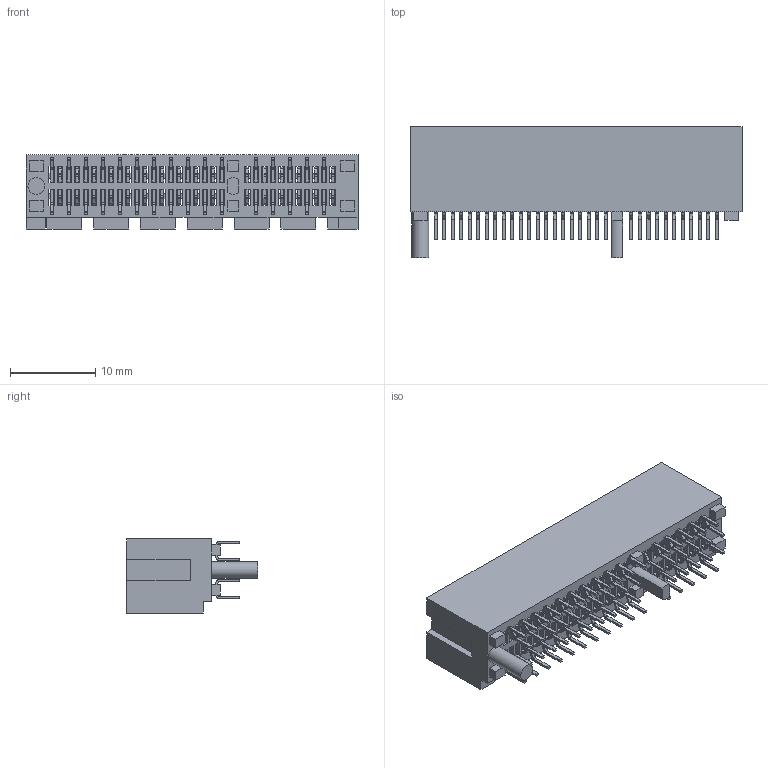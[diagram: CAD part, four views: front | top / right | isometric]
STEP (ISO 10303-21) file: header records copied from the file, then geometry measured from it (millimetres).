
FILE_DESCRIPTION(/* description */ ('STEP AP214'),/* implementation_level */ '2;1');
FILE_NAME(/* name */ 'PCIE-064-02-F-D-TH',/* time_stamp */ '2024-12-11T17:08:45+01:00',/* author */ ('License CC BY-ND 4.0'),/* organization */ ('CADENAS'),/* preprocessor_version */ 'ST-DEVELOPER v19.3',/* originating_system */ 'PARTsolutions',/* authorisation */ ' ');
FILE_SCHEMA (('AUTOMOTIVE_DESIGN {1 0 10303 214 3 1 1}'));
Products named in the file (4): PCIE-064-02-F-D-TH; PCIE-064-02-F-D-TH_body; PCIE-064-02-F-D-TH_pins1; PCIE-064-02-F-D-TH_pins2
Assembly tree (3 placements, depth 2):
  PCIE-064-02-F-D-TH
    PCIE-064-02-F-D-TH_body
    PCIE-064-02-F-D-TH_pins1
    PCIE-064-02-F-D-TH_pins2
Bounding box: 39 x 15.41 x 8.7 mm (x, y, z)
Volume: 1938.3 mm3; surface area: 6251.2 mm2
Topology: 3 solids, 3 shells, 2685 faces, 8375 edges, 5579 vertices
Faces by surface type: plane 1914, cylinder 771
Full cylindrical faces by diameter (mm): 1.981 x1
Entity records: 97509 total; most frequent: ORIENTED_EDGE 16748, CARTESIAN_POINT 16642, DIRECTION 15294, EDGE_CURVE 8374, LINE 6832, VECTOR 6832, VERTEX_POINT 5579, AXIS2_PLACEMENT_3D 4231
